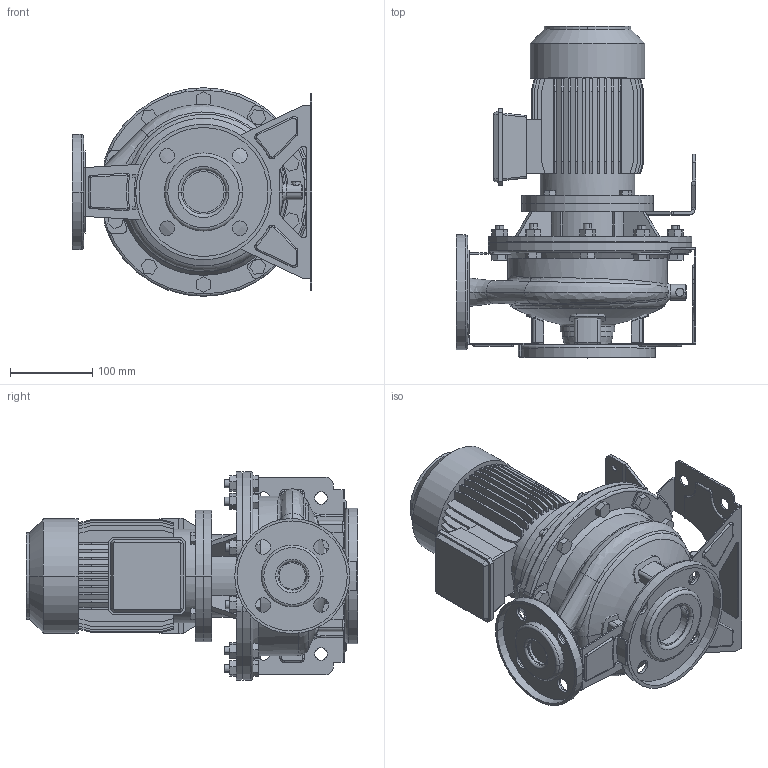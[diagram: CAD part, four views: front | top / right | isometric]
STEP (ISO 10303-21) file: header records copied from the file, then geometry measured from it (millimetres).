
FILE_DESCRIPTION((''),'2;1');
FILE_NAME('3S4_32-160_0_37_IE1_ASM','2016-09-23T',('rosa'),('"Ebara Pumps Europe +39.444.706811"'),'PRO/ENGINEER BY PARAMETRIC TECHNOLOGY CORPORATION, 2012130','PRO/ENGINEER BY PARAMETRIC TECHNOLOGY CORPORATION, 2012130','');
FILE_SCHEMA(('AUTOMOTIVE_DESIGN { 1 0 10303 214 1 1 1 1 }'));
Length unit declared in the file: millimetre
Products named in the file (11): MOTORE_71_0_25-0_37_KW_4POLI_B5; SUPPORTO_3S_190_71; SOSTEGNO_3S_72017; CORPO_32-160_AF0; ASP_32-160; FLANGIA_DIN_50; MAND_32-160; FLANGIA_DIN_32; BASE_3M_32-160; CORPO_SALDATO_32-160_ASM; 3S4_32-160_0_37_IE1_ASM
Assembly tree (10 placements, depth 3):
  3S4_32-160_0_37_IE1_ASM
    MOTORE_71_0_25-0_37_KW_4POLI_B5
    SUPPORTO_3S_190_71
    SOSTEGNO_3S_72017
    CORPO_SALDATO_32-160_ASM
      CORPO_32-160_AF0
      ASP_32-160
      FLANGIA_DIN_50
      MAND_32-160
      FLANGIA_DIN_32
      BASE_3M_32-160
Bounding box: 292 x 404 x 254 mm (x, y, z)
Volume: 7021756 mm3; surface area: 929983.7 mm2
Topology: 12 solids, 12 shells, 1089 faces, 2801 edges, 1839 vertices
Faces by surface type: plane 674, cylinder 300, torus 54, bspline 31, cone 24, sphere 6
Entity records: 46080 total; most frequent: CARTESIAN_POINT 8589, DIRECTION 5741, ORIENTED_EDGE 5602, EDGE_CURVE 2801, PRESENTATION_STYLE_ASSIGNMENT 2680, STYLED_ITEM 2680, CURVE_STYLE 2669, AXIS2_PLACEMENT_3D 1951
